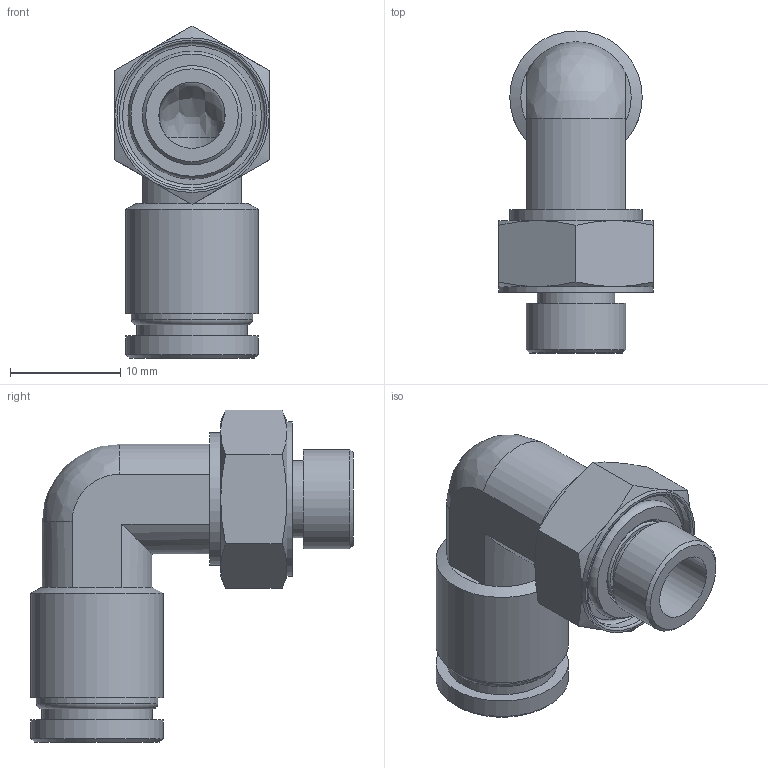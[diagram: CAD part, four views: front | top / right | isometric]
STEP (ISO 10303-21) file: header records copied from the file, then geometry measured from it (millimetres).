
FILE_DESCRIPTION(/* description */ (''),/* implementation_level */ '2;1');
FILE_NAME(/* name */ 'LXH28 0008 B1.stp',/* time_stamp */ '2026-04-30T12:44:33+02:00',/* author */ ('freju'),/* organization */ (''),/* preprocessor_version */ 'ST-DEVELOPER v20.1',/* originating_system */ 'Autodesk Inventor 2026',/* authorisation */ '');
FILE_SCHEMA (('AUTOMOTIVE_DESIGN { 1 0 10303 214 3 1 1 }'));
Length unit declared in the file: millimetre
Products named in the file (4): LXH28 0008 B1; LXH28 0008 B1_1; O-Ring; ISO 3601-1 - A 0080 G
Assembly tree (3 placements, depth 3):
  LXH28 0008 B1
    LXH28 0008 B1_1
    O-Ring
      ISO 3601-1 - A 0080 G
Bounding box: 14 x 29.2 x 30.08 mm (x, y, z)
Volume: 2689.5 mm3; surface area: 3151.1 mm2
Topology: 2 solids, 2 shells, 64 faces, 137 edges, 84 vertices
Faces by surface type: plane 23, cylinder 17, cone 15, torus 7, bspline 2
Full cylindrical faces by diameter (mm): 6 x2, 7 x1, 8 x2, 9 x1, 10 x1, 11 x1, 12 x3, 13.2 x1, 14 x1
Entity records: 1884 total; most frequent: CARTESIAN_POINT 372, DIRECTION 326, ORIENTED_EDGE 270, AXIS2_PLACEMENT_3D 146, EDGE_CURVE 135, VERTEX_POINT 84, EDGE_LOOP 77, CIRCLE 75
